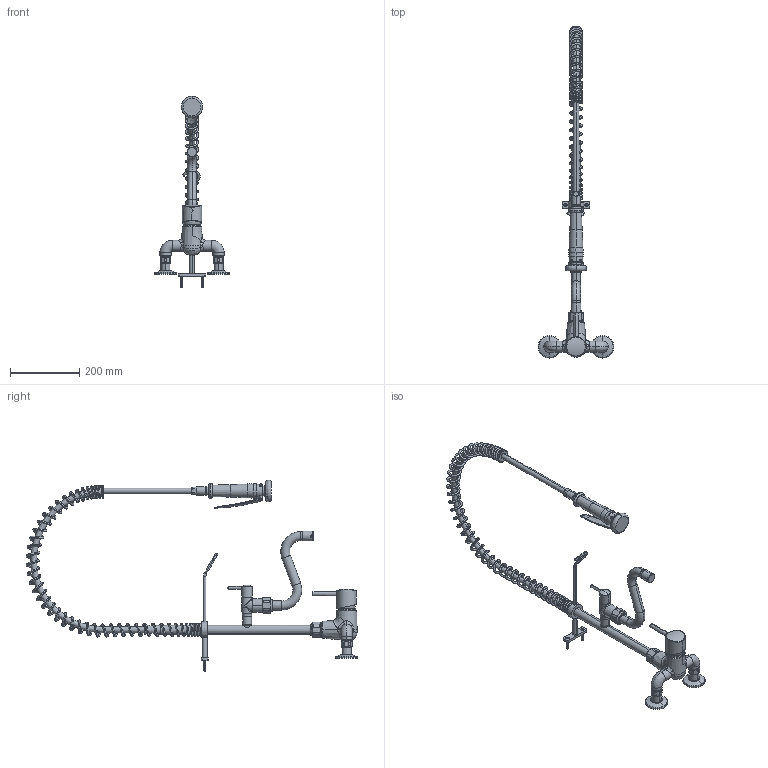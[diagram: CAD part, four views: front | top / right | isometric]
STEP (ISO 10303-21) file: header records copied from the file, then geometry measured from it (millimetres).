
FILE_DESCRIPTION((''),'2;1');
FILE_NAME('24_502_164_XXX','2012-01-03T',('HEF'),(''),'PRO/ENGINEER BY PARAMETRIC TECHNOLOGY CORPORATION, 2011080','PRO/ENGINEER BY PARAMETRIC TECHNOLOGY CORPORATION, 2011080','');
FILE_SCHEMA(('AUTOMOTIVE_DESIGN_CC2 { 1 2 10303 214 -1 1 5 2 }'));
Products named in the file (1): 24_502_164_XXX
Bounding box: 218 x 956.29 x 552.98 mm (x, y, z)
Volume: 1931009.9 mm3; surface area: 377092.8 mm2
Topology: 4 solids, 6 shells, 964 faces, 2387 edges, 1448 vertices
Faces by surface type: cylinder 252, bspline 232, plane 220, torus 163, cone 68, sphere 23, revolution 6
Entity records: 98449 total; most frequent: CARTESIAN_POINT 68535, ORIENTED_EDGE 4738, DIRECTION 3853, EDGE_CURVE 2369, AXIS2_PLACEMENT_3D 1620, VERTEX_POINT 1448, FILL_AREA_STYLE_COLOUR 1415, FILL_AREA_STYLE 1415
